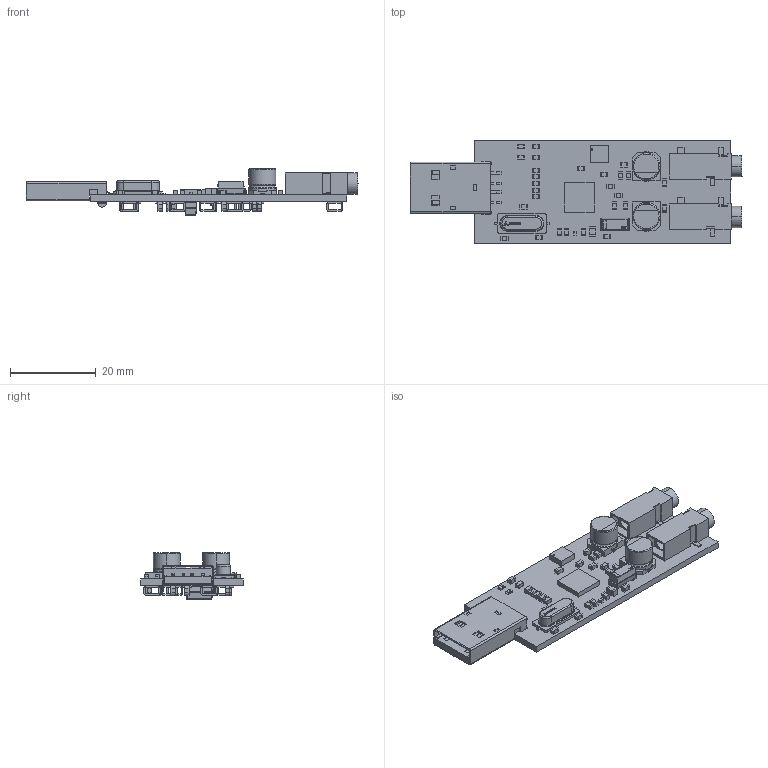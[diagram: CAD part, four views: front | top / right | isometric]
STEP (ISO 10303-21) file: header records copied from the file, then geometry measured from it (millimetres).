
FILE_DESCRIPTION(('Open CASCADE Model'),'2;1');
FILE_NAME('Open CASCADE Shape Model','2021-08-06T15:41:44',('Author'),( 'Open CASCADE'),'Open CASCADE STEP processor 6.8','Open CASCADE 6.8' ,'Unknown');
FILE_SCHEMA(('AUTOMOTIVE_DESIGN { 1 0 10303 214 1 1 1 1 }'));
Length unit declared in the file: millimetre
Products named in the file (116): PCB; Board; Open CASCADE STEP translator 6.8 2.1.1; TP17; 5019; TP16; TP15; TP14; TP13; TP12; TP11; TP10; TP9; TP8; TP7; TP6; TP5; TP4; TP3; TP2; TP1; Y1; Crys_ABLS2-6.000MHZ-D4Y-T_SMT_11MM4_4MM7; Pieza1; Open CASCADE STEP translator 6.8 2.19.1.1.1; Open CASCADE STEP translator 6.8 2.19.1.1.2; Pieza2; Pieza4; U1; 5964529440; Extruded; S1; 5964529760; Cylinder; 5964529600; R15; 5964527440; 5964527280; R14; R13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
Assembly tree (220 placements, depth 5):
  PCB
    Board
      Open CASCADE STEP translator 6.8 2.1.1
    TP17
      5019
    TP16
      5019
    TP15
      5019
    TP14
      5019
    TP13
      5019
    TP12
      5019
    TP11
      5019
    TP10
      5019
    TP9
      5019
    TP8
      5019
    TP7
      5019
    TP6
      5019
    TP5
      5019
    TP4
      5019
    TP3
      5019
    TP2
      5019
    TP1
      5019
    Y1
      Crys_ABLS2-6.000MHZ-D4Y-T_SMT_11MM4_4MM7
        Pieza1
          Open CASCADE STEP translator 6.8 2.19.1.1.1
          Open CASCADE STEP translator 6.8 2.19.1.1.2
        Pieza2
        Pieza4
    U1
      5964529440
        Extruded
    S1
      5964529760
        Cylinder
      5964529600
        Extruded
    R15
      5964527440  x2
        Extruded
      5964527280
        Extruded
    R14
      5964527440  x2
        Extruded
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Bounding box: 77.63 x 24 x 10.88 mm (x, y, z)
Volume: 4382 mm3; surface area: 8784.9 mm2
Topology: 172 solids, 172 shells, 2454 faces, 5680 edges, 3580 vertices
Faces by surface type: plane 1991, cylinder 348, bspline 75, torus 16, cone 16, sphere 8
Full cylindrical faces by diameter (mm): 0.4 x1, 1.092 x2, 1.7 x4
Entity records: 34538 total; most frequent: CARTESIAN_POINT 6853, DIRECTION 5022, ORIENTED_EDGE 5016, EDGE_CURVE 2508, LINE 1984, VECTOR 1984, VERTEX_POINT 1638, AXIS2_PLACEMENT_3D 1519
